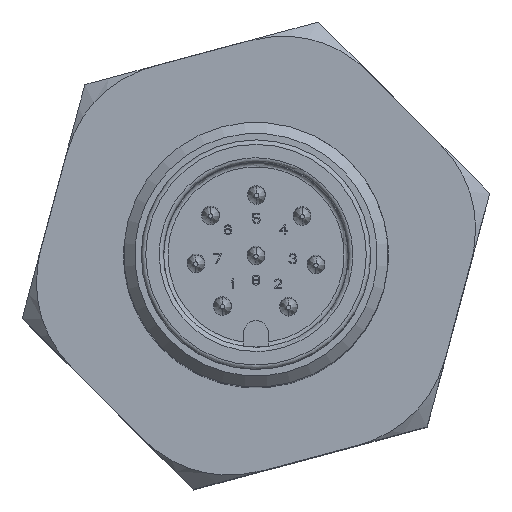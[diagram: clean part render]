
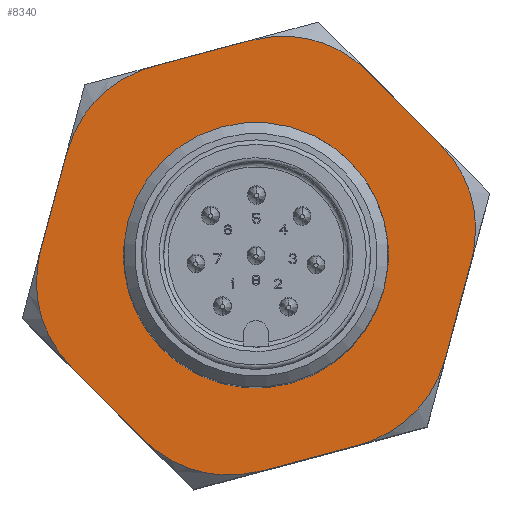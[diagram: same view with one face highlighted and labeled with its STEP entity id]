
A CAD part, top view. The second image highlights one B-rep face of the part: STEP entity #8340.
In plain terms, the highlighted planar face has unit normal (0, 0, 1).
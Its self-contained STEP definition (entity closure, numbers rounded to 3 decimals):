
#130=ELLIPSE('',#8897,12.22,8.);
#132=ELLIPSE('',#8900,12.22,8.);
#133=ELLIPSE('',#8901,12.22,8.);
#134=ELLIPSE('',#8902,12.22,8.);
#135=ELLIPSE('',#8903,12.22,8.);
#136=ELLIPSE('',#8904,12.22,8.);
#187=FACE_BOUND('',#1181,.T.);
#269=CIRCLE('',#8905,6.);
#708=FACE_OUTER_BOUND('',#1180,.T.);
#1180=EDGE_LOOP('',(#7438,#7439,#7440,#7441,#7442,#7443,#7444,#7445,#7446,
#7447,#7448,#7449));
#1181=EDGE_LOOP('',(#7450));
#2186=LINE('',#14246,#3193);
#2187=LINE('',#14250,#3194);
#2188=LINE('',#14254,#3195);
#2189=LINE('',#14258,#3196);
#2190=LINE('',#14262,#3197);
#2191=LINE('',#14265,#3198);
#3193=VECTOR('',#10934,10.);
#3194=VECTOR('',#10937,10.);
#3195=VECTOR('',#10940,10.);
#3196=VECTOR('',#10943,10.);
#3197=VECTOR('',#10946,10.);
#3198=VECTOR('',#10949,10.);
#3990=VERTEX_POINT('',#14237);
#3991=VERTEX_POINT('',#14239);
#3993=VERTEX_POINT('',#14245);
#3994=VERTEX_POINT('',#14247);
#3995=VERTEX_POINT('',#14249);
#3996=VERTEX_POINT('',#14251);
#3997=VERTEX_POINT('',#14253);
#3998=VERTEX_POINT('',#14255);
#3999=VERTEX_POINT('',#14257);
#4000=VERTEX_POINT('',#14259);
#4001=VERTEX_POINT('',#14261);
#4002=VERTEX_POINT('',#14263);
#4003=VERTEX_POINT('',#14266);
#5148=EDGE_CURVE('',#3990,#3991,#130,.T.);
#5151=EDGE_CURVE('',#3993,#3990,#2186,.T.);
#5152=EDGE_CURVE('',#3994,#3993,#132,.T.);
#5153=EDGE_CURVE('',#3995,#3994,#2187,.T.);
#5154=EDGE_CURVE('',#3996,#3995,#133,.T.);
#5155=EDGE_CURVE('',#3997,#3996,#2188,.T.);
#5156=EDGE_CURVE('',#3998,#3997,#134,.T.);
#5157=EDGE_CURVE('',#3999,#3998,#2189,.T.);
#5158=EDGE_CURVE('',#4000,#3999,#135,.T.);
#5159=EDGE_CURVE('',#4001,#4000,#2190,.T.);
#5160=EDGE_CURVE('',#4002,#4001,#136,.T.);
#5161=EDGE_CURVE('',#3991,#4002,#2191,.T.);
#5162=EDGE_CURVE('',#4003,#4003,#269,.T.);
#7438=ORIENTED_EDGE('',*,*,#5148,.F.);
#7439=ORIENTED_EDGE('',*,*,#5151,.F.);
#7440=ORIENTED_EDGE('',*,*,#5152,.F.);
#7441=ORIENTED_EDGE('',*,*,#5153,.F.);
#7442=ORIENTED_EDGE('',*,*,#5154,.F.);
#7443=ORIENTED_EDGE('',*,*,#5155,.F.);
#7444=ORIENTED_EDGE('',*,*,#5156,.F.);
#7445=ORIENTED_EDGE('',*,*,#5157,.F.);
#7446=ORIENTED_EDGE('',*,*,#5158,.F.);
#7447=ORIENTED_EDGE('',*,*,#5159,.F.);
#7448=ORIENTED_EDGE('',*,*,#5160,.F.);
#7449=ORIENTED_EDGE('',*,*,#5161,.F.);
#7450=ORIENTED_EDGE('',*,*,#5162,.T.);
#7883=PLANE('',#8899);
#8340=ADVANCED_FACE('',(#708,#187),#7883,.T.);
#8897=AXIS2_PLACEMENT_3D('',#14240,#10927,#10928);
#8899=AXIS2_PLACEMENT_3D('',#14244,#10932,#10933);
#8900=AXIS2_PLACEMENT_3D('',#14248,#10935,#10936);
#8901=AXIS2_PLACEMENT_3D('',#14252,#10938,#10939);
#8902=AXIS2_PLACEMENT_3D('',#14256,#10941,#10942);
#8903=AXIS2_PLACEMENT_3D('',#14260,#10944,#10945);
#8904=AXIS2_PLACEMENT_3D('',#14264,#10947,#10948);
#8905=AXIS2_PLACEMENT_3D('',#14267,#10950,#10951);
#10927=DIRECTION('center_axis',(0.,0.,-1.));
#10928=DIRECTION('ref_axis',(0.,-1.,0.));
#10932=DIRECTION('center_axis',(0.,0.,1.));
#10933=DIRECTION('ref_axis',(1.,0.,0.));
#10934=DIRECTION('',(-0.866,-0.5,0.));
#10935=DIRECTION('center_axis',(0.,0.,-1.));
#10936=DIRECTION('ref_axis',(0.866,-0.5,0.));
#10937=DIRECTION('',(0.,-1.,0.));
#10938=DIRECTION('center_axis',(0.,0.,-1.));
#10939=DIRECTION('ref_axis',(0.866,0.5,0.));
#10940=DIRECTION('',(0.866,-0.5,0.));
#10941=DIRECTION('center_axis',(0.,0.,-1.));
#10942=DIRECTION('ref_axis',(0.,1.,0.));
#10943=DIRECTION('',(0.866,0.5,0.));
#10944=DIRECTION('center_axis',(0.,0.,-1.));
#10945=DIRECTION('ref_axis',(-0.866,0.5,0.));
#10946=DIRECTION('',(0.,1.,0.));
#10947=DIRECTION('center_axis',(0.,0.,-1.));
#10948=DIRECTION('ref_axis',(-0.866,-0.5,0.));
#10949=DIRECTION('',(-0.866,0.5,0.));
#10950=DIRECTION('center_axis',(0.,0.,-1.));
#10951=DIRECTION('ref_axis',(-1.,0.,0.));
#14237=CARTESIAN_POINT('',(2.828,-9.325,4.));
#14239=CARTESIAN_POINT('',(-2.828,-9.325,4.));
#14240=CARTESIAN_POINT('Origin',(0.,2.106,
4.));
#14244=CARTESIAN_POINT('Origin',(0.,0.,4.));
#14245=CARTESIAN_POINT('',(6.662,-7.112,4.));
#14246=CARTESIAN_POINT('',(2.37,-9.59,4.));
#14247=CARTESIAN_POINT('',(9.49,-2.213,4.));
#14248=CARTESIAN_POINT('Origin',(-1.824,1.053,4.));
#14249=CARTESIAN_POINT('',(9.49,2.213,4.));
#14250=CARTESIAN_POINT('',(9.49,-2.742,4.));
#14251=CARTESIAN_POINT('',(6.662,7.112,4.));
#14252=CARTESIAN_POINT('Origin',(-1.824,-1.053,4.));
#14253=CARTESIAN_POINT('',(2.828,9.325,4.));
#14254=CARTESIAN_POINT('',(7.12,6.847,4.));
#14255=CARTESIAN_POINT('',(-2.828,9.325,4.));
#14256=CARTESIAN_POINT('Origin',(0.,-2.106,
4.));
#14257=CARTESIAN_POINT('',(-6.662,7.112,4.));
#14258=CARTESIAN_POINT('',(-2.37,9.59,4.));
#14259=CARTESIAN_POINT('',(-9.49,2.213,4.));
#14260=CARTESIAN_POINT('Origin',(1.824,-1.053,4.));
#14261=CARTESIAN_POINT('',(-9.49,-2.213,4.));
#14262=CARTESIAN_POINT('',(-9.49,2.742,4.));
#14263=CARTESIAN_POINT('',(-6.662,-7.112,4.));
#14264=CARTESIAN_POINT('Origin',(1.824,1.053,4.));
#14265=CARTESIAN_POINT('',(-7.12,-6.847,4.));
#14266=CARTESIAN_POINT('',(6.,0.,4.));
#14267=CARTESIAN_POINT('Origin',(0.,0.,4.));
